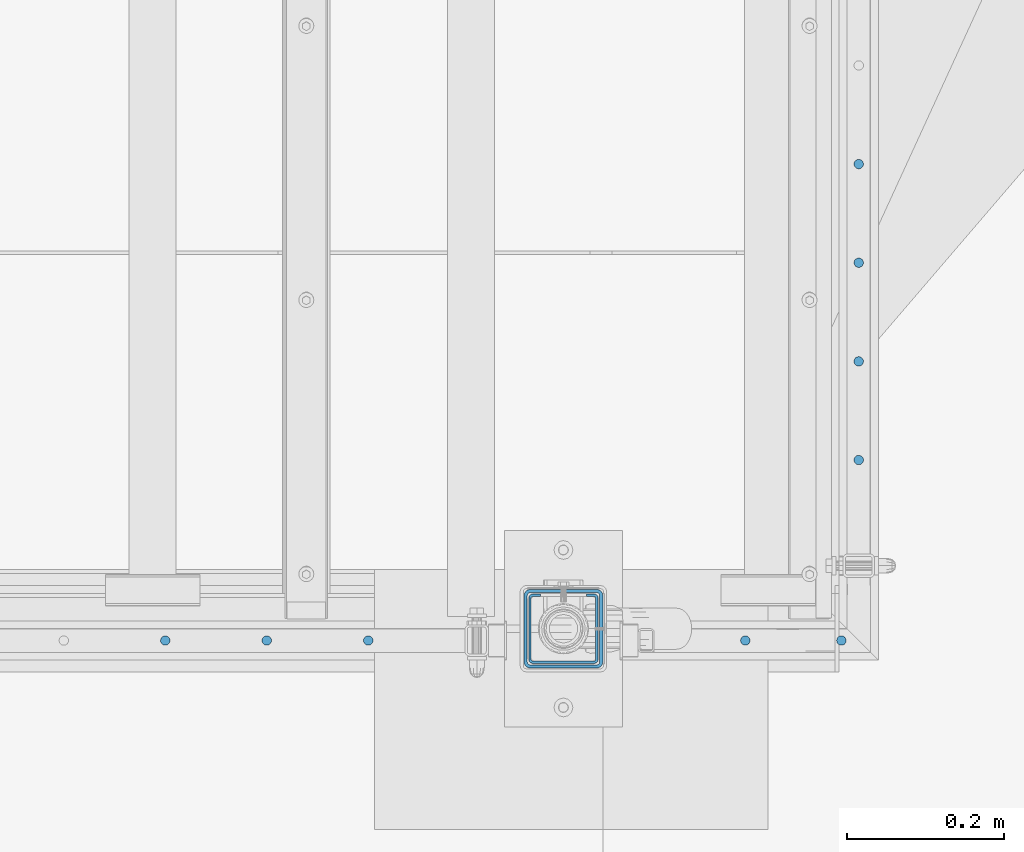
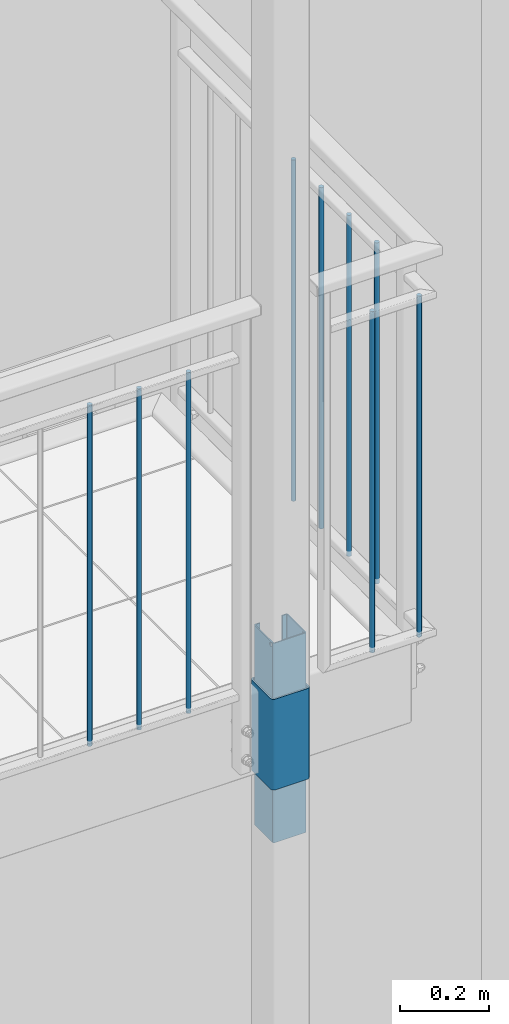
# One storey, part 29 of 162: 11 columns, 3 openings.
"""IFC2X3 building model written with IfcOpenShell, lengths in millimetres."""

from ifc_helpers import new_model, entity, si_unit, converted_unit, point, frame, frame_2d, origin, origin_with_axes, origin_2d, place, context, project, spatial, circle_curve, line_curve, trimmed, segment, composite_curve, hollow_rectangle, circle, outline, extrude, material, element, save


model = new_model("IFC2X3")

# Units and contexts
model_context = context("Model", 3, precision=1e-09, world=origin_with_axes())
ifc_project = project(units=[si_unit("LENGTHUNIT", "METRE", prefix="MILLI"), si_unit("AREAUNIT", "SQUARE_METRE"), si_unit("VOLUMEUNIT", "CUBIC_METRE"), converted_unit("PLANEANGLEUNIT", "DEGREE", entity("IfcPlaneAngleMeasure", 0.01745329), si_unit("PLANEANGLEUNIT", "RADIAN"), dimensions=[0, 0, 0, 0, 0, 0, 0])], contexts=[model_context])

# Site, building, storey
site_placement = place(None, origin_with_axes())
site = spatial("IfcSite", under=ifc_project, at=site_placement, Name="Hermannstra?e 1a, 60318 Frankfurt", CompositionType="ELEMENT")
building_placement = place(site_placement, origin_with_axes())
building = spatial("IfcBuilding", under=site, at=building_placement, Name="Struktur 1", CompositionType="ELEMENT")
storey_placement = place(building_placement, origin_with_axes())
storey = spatial("IfcBuildingStorey", under=building, at=storey_placement, Name="Default Storey", CompositionType="ELEMENT", Elevation=0.0)

# Columns
ifc_material = material(Name="S235JR")
for number, where, z_axis, x_axis in (
    (1, (5848.30936482, 2120.609373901, 11504.999), (0.0, 0.0, -1.0), (0.0, -1.0, 0.0)),
    (2, (5848.30936482, 1995.359373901, 11504.999), (0.0, 0.0, -1.0), (0.0, -1.0, 0.0)),
    (3, (5848.30936482, 1870.109373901, 11504.999), (0.0, 0.0, -1.0), (0.0, -1.0, 0.0)),
    (4, (5848.30936482, 1744.859373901, 11504.999), (0.0, 0.0, -1.0), (0.0, -1.0, 0.0)),
    (5, (4967.737936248, 1515.609373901, 11504.999), (0.0, 0.0, -1.0), (1.0, 0.0, 0.0)),
    (6, (5096.595079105, 1515.609373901, 11504.999), (0.0, 0.0, -1.0), (1.0, 0.0, 0.0)),
    (7, (5225.452221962, 1515.609373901, 11504.999), (0.0, 0.0, -1.0), (1.0, 0.0, 0.0)),
):
    element("IfcColumn", number, at=place(None, frame(where, z_axis=z_axis, x_axis=x_axis)), inside=storey, material=ifc_material, Name="-", ObjectType="-", context=model_context, shape_type="SweptSolid", body=[
        extrude(circle(Radius=6.0, at=origin_2d()), origin(), (0.0, 0.0, -1.0), 940.0),
    ])
for number, where, z_axis, x_axis in (
    (8, (5704.30936482, 1515.609373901, 11504.999), (0.0, 0.0, 1.0), (-1.0, 0.0, 0.0)),
    (9, (5826.30936482, 1515.609373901, 11504.999), (0.0, 0.0, 1.0), (-1.0, 0.0, 0.0)),
):
    element("IfcColumn", number, at=place(None, frame(where, z_axis=z_axis, x_axis=x_axis)), inside=storey, material=ifc_material, Name="-", ObjectType="-", context=model_context, shape_type="SweptSolid", body=[
        extrude(circle(Radius=6.0, at=origin_2d()), origin(), (0.0, 0.0, 1.0), 940.0),
    ])

# Column, opening
column_1_placement = place(None, frame((5473.30936482, 1530.609373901, 11239.999), z_axis=(0.0, 0.0, 1.0), x_axis=(0.0, -1.0, 0.0)))
column_1 = element("IfcColumn", 10, at=column_1_placement, inside=storey, material=ifc_material, Name="-", ObjectType="-", context=model_context, shape_type="SweptSolid", body=[
    extrude(hollow_rectangle(XDim=100.0, YDim=100.0, WallThickness=4.0, InnerFilletRadius=4.0, OuterFilletRadius=8.0, at=origin_2d()), origin(), (0.0, 0.0, 1.0), 250.0),
])
opening_1_placement = place(column_1_placement, frame((20.0, -26.002684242, 15.999), z_axis=(1.0, 0.0, 0.0), x_axis=(0.0, 0.707106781, -0.707106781)))
element("IfcOpeningElement", 11, at=opening_1_placement, cuts=column_1, ObjectType="Opening", context=model_context, shape_type="SweptSolid", body=[
    extrude(outline(composite_curve([segment(trimmed(circle_curve(frame_2d((4.242640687, 4.242640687), x_axis=(1.0, 0.0)), 6.0), [point((0.0, 0.0))], [point((8.485281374, 0.0))], True, "CARTESIAN"), True, "CONTINUOUS"), segment(trimmed(line_curve((8.485281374, 0.0), (0.707106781, 0.707106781), 40.002), [point((8.485281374, 0.0))], [point((36.770966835, 28.285685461))], True, "CARTESIAN"), True, "CONTINUOUS"), segment(trimmed(circle_curve(frame_2d((32.528326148, 32.528326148), x_axis=(1.0, 0.0)), 6.0), [point((36.770966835, 28.285685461))], [point((36.770966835, 36.770966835))], True, "CARTESIAN"), True, "CONTINUOUS"), segment(trimmed(line_curve((36.770966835, 36.770966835), (-0.707106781, 0.707106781), 38.002), [point((36.770966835, 36.770966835))], [point((9.899494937, 63.642438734))], True, "CARTESIAN"), True, "CONTINUOUS"), segment(trimmed(circle_curve(frame_2d((5.656854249, 59.399798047), x_axis=(1.0, 0.0)), 6.0), [point((9.899494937, 63.642438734))], [point((1.414213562, 63.642438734))], True, "CARTESIAN"), True, "CONTINUOUS"), segment(trimmed(line_curve((1.414213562, 63.642438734), (-0.707106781, -0.707106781), 40.002), [point((1.414213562, 63.642438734))], [point((-26.871471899, 35.356753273))], True, "CARTESIAN"), True, "CONTINUOUS"), segment(trimmed(circle_curve(frame_2d((-22.628831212, 31.114112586), x_axis=(1.0, 0.0)), 6.0), [point((-26.871471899, 35.356753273))], [point((-26.871471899, 26.871471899))], True, "CARTESIAN"), True, "CONTINUOUS"), segment(trimmed(line_curve((-26.871471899, 26.871471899), (0.707106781, -0.707106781), 38.002), [point((-26.871471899, 26.871471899))], [point((0.0, 0.0))], True, "CARTESIAN"), True, "CONTINUOUS")], self_intersect=False)), origin(), (0.0, 0.0, -1.0), 170.1),
])

# Column, openings
column_2_placement = place(None, frame((5473.30936482, 1530.609373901, 11639.999), z_axis=(0.0, 0.0, 1.0), x_axis=(0.0, 1.0, 0.0)))
column_2 = element("IfcColumn", 12, at=column_2_placement, inside=storey, material=ifc_material, Name="-", ObjectType="-", context=model_context, shape_type="SweptSolid", body=[
    extrude(outline(composite_curve([segment(trimmed(line_curve((44.0, 29.0), (0.0, 1.0), 10.0), [point((44.0, 29.0))], [point((44.0, 39.0))], True, "CARTESIAN"), True, "CONTINUOUS"), segment(trimmed(circle_curve(frame_2d((39.0, 39.0), x_axis=(1.0, 0.0)), 5.0), [point((44.0, 39.0))], [point((39.0, 44.0))], True, "CARTESIAN"), True, "CONTINUOUS"), segment(trimmed(line_curve((39.0, 44.0), (-1.0, 0.0), 78.0), [point((39.0, 44.0))], [point((-39.0, 44.0))], True, "CARTESIAN"), True, "CONTINUOUS"), segment(trimmed(circle_curve(frame_2d((-39.0, 39.0), x_axis=(1.0, 0.0)), 5.0), [point((-39.0, 44.0))], [point((-44.0, 39.0))], True, "CARTESIAN"), True, "CONTINUOUS"), segment(trimmed(line_curve((-44.0, 39.0), (0.0, -1.0), 78.0), [point((-44.0, 39.0))], [point((-44.0, -39.0))], True, "CARTESIAN"), True, "CONTINUOUS"), segment(trimmed(circle_curve(frame_2d((-39.0, -39.0), x_axis=(1.0, 0.0)), 5.0), [point((-44.0, -39.0))], [point((-39.0, -44.0))], True, "CARTESIAN"), True, "CONTINUOUS"), segment(trimmed(line_curve((-39.0, -44.0), (1.0, 0.0), 78.0), [point((-39.0, -44.0))], [point((39.0, -44.0))], True, "CARTESIAN"), True, "CONTINUOUS"), segment(trimmed(circle_curve(frame_2d((39.0, -39.0), x_axis=(1.0, 0.0)), 5.0), [point((39.0, -44.0))], [point((44.0, -39.0))], True, "CARTESIAN"), True, "CONTINUOUS"), segment(trimmed(line_curve((44.0, -39.0), (0.0, 1.0), 10.0), [point((44.0, -39.0))], [point((44.0, -29.0))], True, "CARTESIAN"), True, "CONTINUOUS"), segment(trimmed(line_curve((44.0, -29.0), (-1.0, 0.0), 3.0), [point((44.0, -29.0))], [point((41.0, -29.0))], True, "CARTESIAN"), True, "CONTINUOUS"), segment(trimmed(line_curve((41.0, -29.0), (0.0, -1.0), 10.0), [point((41.0, -29.0))], [point((41.0, -39.0))], True, "CARTESIAN"), True, "CONTINUOUS"), segment(trimmed(circle_curve(frame_2d((39.0, -39.0), x_axis=(-1.0, 0.0)), 2.0), [point((41.0, -39.0))], [point((39.0, -41.0))], False, "CARTESIAN"), True, "CONTINUOUS"), segment(trimmed(line_curve((39.0, -41.0), (-1.0, 0.0), 78.0), [point((39.0, -41.0))], [point((-39.0, -41.0))], True, "CARTESIAN"), True, "CONTINUOUS"), segment(trimmed(circle_curve(frame_2d((-39.0, -39.0), x_axis=(-1.0, 0.0)), 2.0), [point((-39.0, -41.0))], [point((-41.0, -39.0))], False, "CARTESIAN"), True, "CONTINUOUS"), segment(trimmed(line_curve((-41.0, -39.0), (0.0, 1.0), 78.0), [point((-41.0, -39.0))], [point((-41.0, 39.0))], True, "CARTESIAN"), True, "CONTINUOUS"), segment(trimmed(circle_curve(frame_2d((-39.0, 39.0), x_axis=(-1.0, 0.0)), 2.0), [point((-41.0, 39.0))], [point((-39.0, 41.0))], False, "CARTESIAN"), True, "CONTINUOUS"), segment(trimmed(line_curve((-39.0, 41.0), (1.0, 0.0), 78.0), [point((-39.0, 41.0))], [point((39.0, 41.0))], True, "CARTESIAN"), True, "CONTINUOUS"), segment(trimmed(circle_curve(frame_2d((39.0, 39.0), x_axis=(-1.0, 0.0)), 2.0), [point((39.0, 41.0))], [point((41.0, 39.0))], False, "CARTESIAN"), True, "CONTINUOUS"), segment(trimmed(line_curve((41.0, 39.0), (0.0, -1.0), 10.0), [point((41.0, 39.0))], [point((41.0, 29.0))], True, "CARTESIAN"), True, "CONTINUOUS"), segment(trimmed(line_curve((41.0, 29.0), (1.0, 0.0), 3.0), [point((41.0, 29.0))], [point((44.0, 29.0))], True, "CARTESIAN"), True, "CONTINUOUS")], self_intersect=False)), origin(), (0.0, 0.0, -1.0), 550.0),
])
opening_2_placement = place(column_2_placement, frame((-38.001, 40.5, -9.0), z_axis=(0.0, -1.0, 0.0), x_axis=(1.0, 0.0, 0.0)))
element("IfcOpeningElement", 13, at=opening_2_placement, cuts=column_2, ObjectType="Opening", context=model_context, shape_type="SweptSolid", body=[
    extrude(circle(Radius=5.001, at=frame_2d((5.001, 0.0), x_axis=(1.0, 0.0))), origin(), (0.0, 0.0, -1.0), 4.0),
])
opening_3_placement = place(column_2_placement, frame((0.0, -40.5, -160.0), z_axis=(0.0, -1.0, 0.0), x_axis=(1.0, 0.0, 0.0)))
element("IfcOpeningElement", 14, at=opening_3_placement, cuts=column_2, ObjectType="Opening", context=model_context, shape_type="SweptSolid", body=[
    extrude(circle(Radius=5.001, at=frame_2d((-33.0, 151.0), x_axis=(1.0, 0.0))), origin(), (0.0, 0.0, 1.0), 4.0),
])

save(model, "model.ifc")
